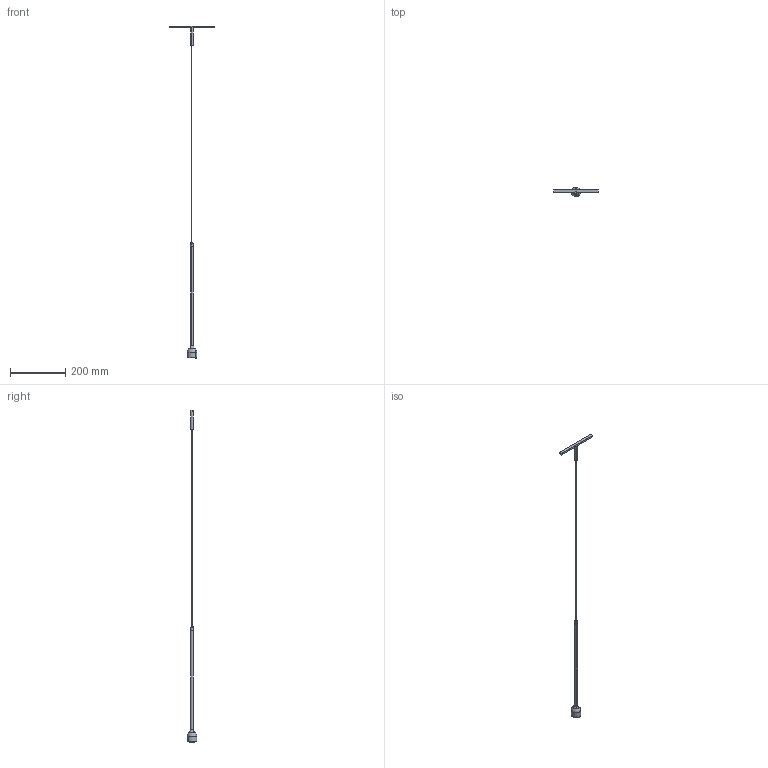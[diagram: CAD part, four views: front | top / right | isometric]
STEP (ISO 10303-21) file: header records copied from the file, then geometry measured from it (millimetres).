
FILE_DESCRIPTION(/* description */ (''),/* implementation_level */ '2;1');
FILE_NAME(/* name */ 'HAIL - STREAM',/* time_stamp */ '2025-10-30T15:38:37+01:00',/* author */ (''),/* organization */ (''),/* preprocessor_version */ 'ST-DEVELOPER v19.2',/* originating_system */ 'Rhino 8.24',/* authorisation */ '');
FILE_SCHEMA (('CONFIG_CONTROL_DESIGN'));
Length unit declared in the file: millimetre
Products named in the file (1): Document
Bounding box: 160.11 x 33.93 x 1200 mm (x, y, z)
Volume: 60242.5 mm3; surface area: 41940.8 mm2
Topology: 7 solids, 7 shells, 88 faces, 201 edges, 133 vertices
Faces by surface type: cylinder 34, bspline 28, plane 26
Entity records: 3331 total; most frequent: CARTESIAN_POINT 1335, ORIENTED_EDGE 402, DIRECTION 314, EDGE_CURVE 201, AXIS2_PLACEMENT_3D 187, VERTEX_POINT 133, TRIMMED_CURVE 125, CIRCLE 125
